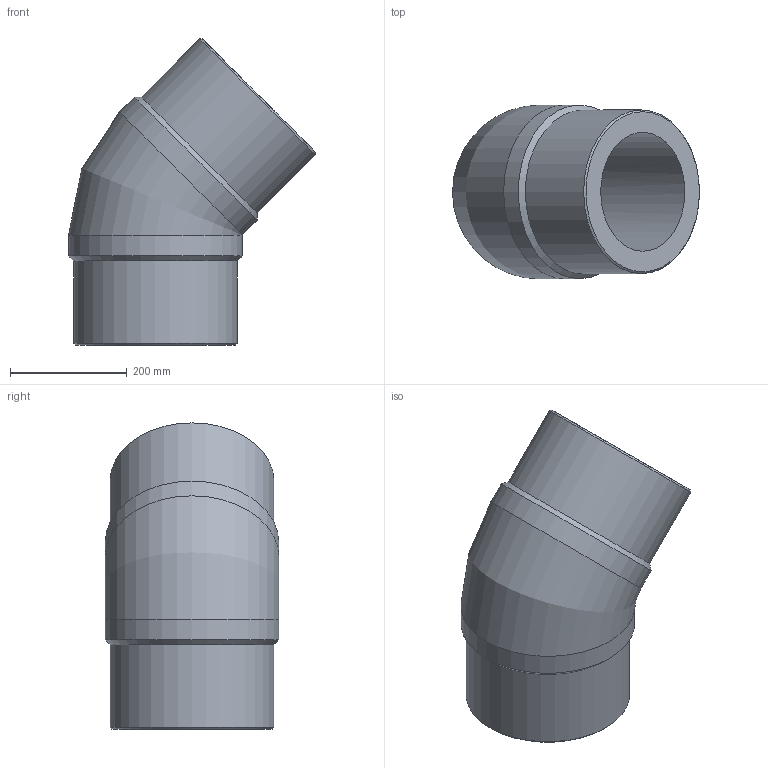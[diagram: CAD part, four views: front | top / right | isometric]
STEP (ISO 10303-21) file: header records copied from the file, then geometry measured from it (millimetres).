
FILE_DESCRIPTION(/* description */ ('Unknown'),/* implementation_level */ '2;1');
FILE_NAME(/* name */ 'G4P280H',/* time_stamp */ '2022-01-17T09:36:52+01:00',/* author */ ('Unknown'),/* organization */ ('Unknown'),/* preprocessor_version */ 'ST-DEVELOPER v18.1',/* originating_system */ 'Solid Edge',/* authorisation */ 'Unknown');
FILE_SCHEMA (('AUTOMOTIVE_DESIGN {1 0 10303 214 3 1 1}'));
Length unit declared in the file: millimetre
Products named in the file (1): G4P280H
Bounding box: 422.15 x 297 x 523.65 mm (x, y, z)
Volume: 15886918.3 mm3; surface area: 821700.9 mm2
Topology: 1 solids, 1 shells, 14 faces, 34 edges, 22 vertices
Faces by surface type: cylinder 6, cone 4, plane 2, torus 2
Full cylindrical faces by diameter (mm): 203.4 x2, 280 x2, 297 x2
Entity records: 368 total; most frequent: CARTESIAN_POINT 68, DIRECTION 60, ORIENTED_EDGE 38, AXIS2_PLACEMENT_3D 30, EDGE_LOOP 27, FACE_BOUND 27, EDGE_CURVE 19, VERTEX_POINT 18
